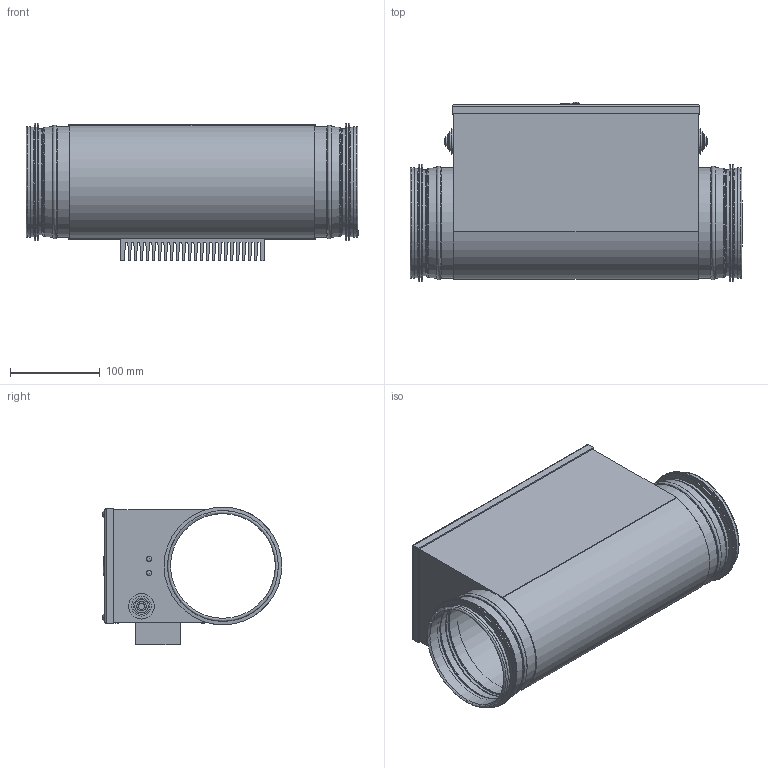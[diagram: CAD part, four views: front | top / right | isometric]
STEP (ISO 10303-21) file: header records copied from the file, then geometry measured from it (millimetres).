
FILE_DESCRIPTION(/* description */ (''),/* implementation_level */ '2;1');
FILE_NAME(/* name */ 'C:\WF Home\Thomas Mønsted\01 - Ventilation\Ventmatica\063223 - 230V Ø125 modulerende 12-230 V - _max. 900 watt.stp',/* time_stamp */ '2020-05-14T13:39:58+02:00',/* author */ ('3113thmo'),/* organization */ (''),/* preprocessor_version */ 'ST-DEVELOPER v16.13',/* originating_system */ 'Autodesk Inventor 2018',/* authorisation */ '');
FILE_SCHEMA (('AUTOMOTIVE_DESIGN { 1 0 10303 214 3 1 1 }'));
Length unit declared in the file: millimetre
Products named in the file (1): 063223 - 230V Ø125 modulerende 12-230 V - _max. 900 watt
Bounding box: 370 x 200 x 153.45 mm (x, y, z)
Volume: 3206545.8 mm3; surface area: 440621.8 mm2
Topology: 2 solids, 3 shells, 494 faces, 1314 edges, 867 vertices
Faces by surface type: plane 283, cylinder 102, bspline 73, torus 22, cone 12, sphere 2
Full cylindrical faces by diameter (mm): 7 x2, 8.2 x2, 10 x1, 10.5 x2, 12 x1, 15 x2, 18 x2, 22 x2, 28.5 x2, 116.7 x2, 118.1 x2, 122.1 x5, 123.5 x4, 131.1 x4
Entity records: 17410 total; most frequent: CARTESIAN_POINT 5137, ORIENTED_EDGE 2446, DIRECTION 2374, EDGE_CURVE 1223, AXIS2_PLACEMENT_3D 857, VERTEX_POINT 851, LINE 660, VECTOR 660
